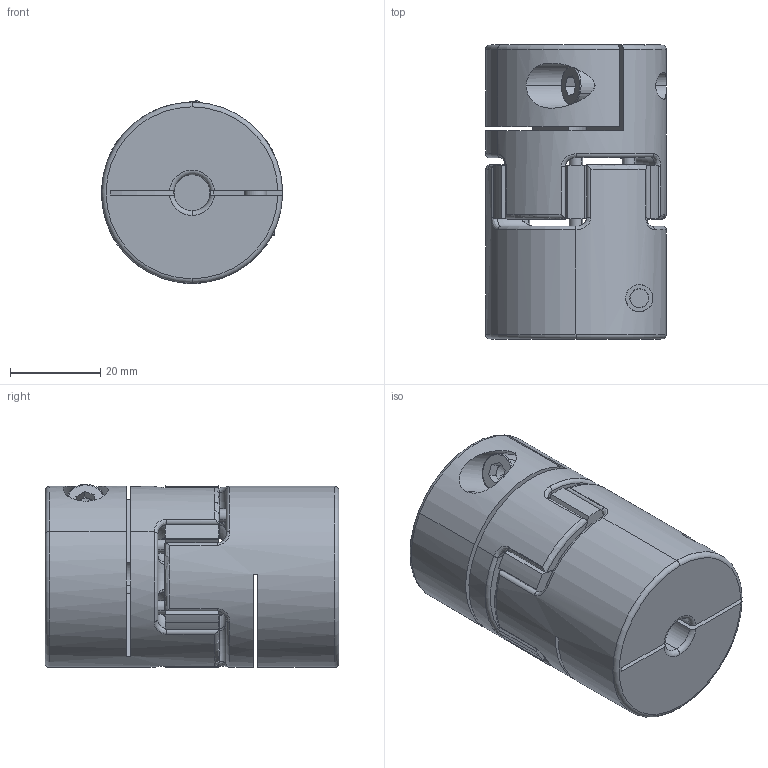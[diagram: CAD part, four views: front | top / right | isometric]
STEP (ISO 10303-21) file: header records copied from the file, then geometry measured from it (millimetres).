
FILE_DESCRIPTION (( 'STEP AP203' ), '1' );
FILE_NAME ('DXA-40X65-8-8.STEP', '2023-10-18T03:54:02', ( '' ), ( '' ), 'SwSTEP 2.0', 'SolidWorks 2020', '' );
FILE_SCHEMA (( 'CONFIG_CONTROL_DESIGN' ));
Length unit declared in the file: millimetre
Products named in the file (4): socket head cap screw_iso_ISO 4762 M5 x 12 - 12C; DXA-40X65-8-8; 40X65繩豪倰; 40繩豪菜
Assembly tree (5 placements, depth 2):
  DXA-40X65-8-8
    40X65繩豪倰  x2
    40繩豪菜
    socket head cap screw_iso_ISO 4762 M5 x 12 - 12C  x2
Bounding box: 40 x 65 x 40.55 mm (x, y, z)
Volume: 72494.6 mm3; surface area: 24329.1 mm2
Topology: 5 solids, 5 shells, 296 faces, 745 edges, 454 vertices
Faces by surface type: cylinder 133, plane 69, torus 62, bspline 24, cone 8
Entity records: 6779 total; most frequent: CARTESIAN_POINT 2099, DIRECTION 947, ORIENTED_EDGE 864, EDGE_CURVE 432, AXIS2_PLACEMENT_3D 404, VERTEX_POINT 272, CIRCLE 232, EDGE_LOOP 194
